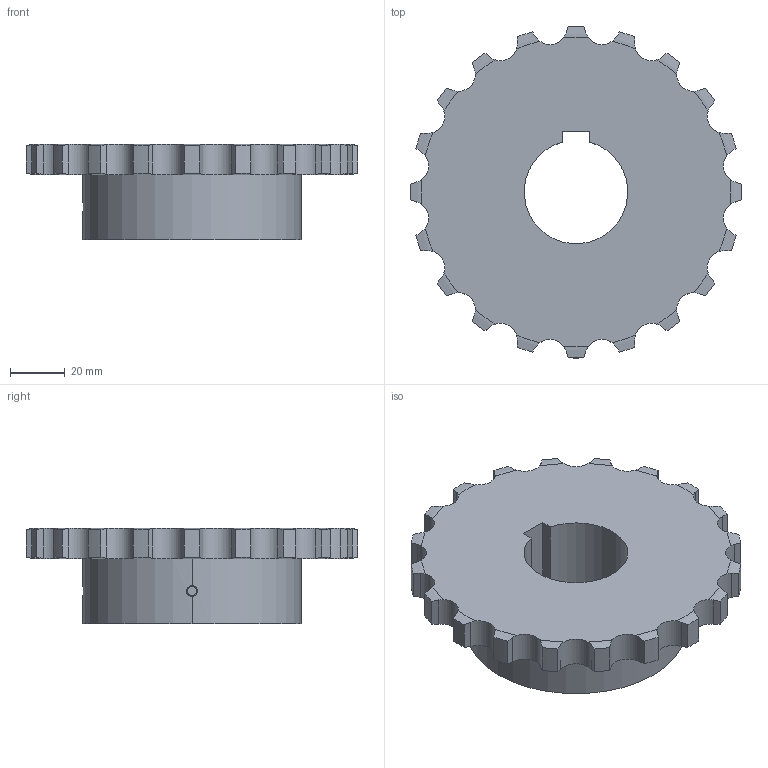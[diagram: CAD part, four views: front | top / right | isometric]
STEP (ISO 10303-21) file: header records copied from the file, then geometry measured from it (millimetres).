
FILE_DESCRIPTION((''),'2;1');
FILE_NAME('510-401-3820_PRT','2021-02-13T',('Brieden'),('Brieden'),'PRO/ENGINEER BY PARAMETRIC TECHNOLOGY CORPORATION, 2010160','PRO/ENGINEER BY PARAMETRIC TECHNOLOGY CORPORATION, 2010160','');
FILE_SCHEMA(('AUTOMOTIVE_DESIGN { 1 0 10303 214 1 1 1 1 }'));
Length unit declared in the file: millimetre
Products named in the file (1): 510-401-3820_PRT
Bounding box: 121.76 x 121.76 x 35 mm (x, y, z)
Volume: 195222.9 mm3; surface area: 34687.4 mm2
Topology: 1 solids, 1 shells, 141 faces, 405 edges, 268 vertices
Faces by surface type: cylinder 87, torus 40, plane 8, bspline 6
Entity records: 6796 total; most frequent: CARTESIAN_POINT 2045, ORIENTED_EDGE 810, DIRECTION 633, PRESENTATION_STYLE_ASSIGNMENT 406, STYLED_ITEM 406, CURVE_STYLE 405, EDGE_CURVE 405, VERTEX_POINT 268
